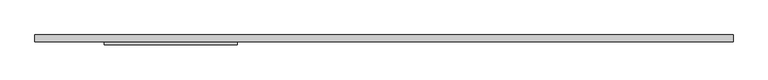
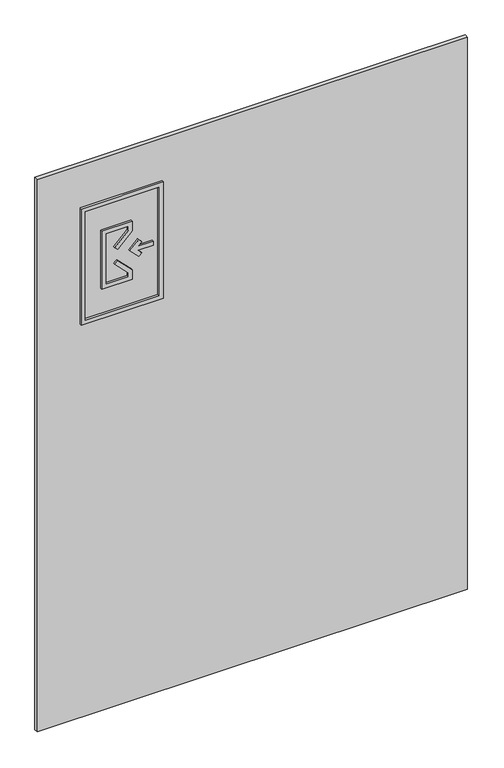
"""IFC4 building model written with IfcOpenShell, lengths in millimetres: plate geometry, 教学楼 - 窗嵌板：外贴消防通道 : 教学楼 - 窗嵌板：外贴消防通道."""

from ifc_helpers import new_model, si_unit, frame, origin, origin_with_axes, place, context, project, spatial, polyline, outline, extrude, source, transform, mapped, element, save


def plate_7c94d5a9(model_context):
    return source(origin(), model_context, "Body", "SweptSolid", [
        extrude(outline(polyline([(1315.8626933, -420.9928715), (1015.8626933, -420.9928715), (1015.8626933, -220.9928715), (1315.8626933, -220.9928715), (1315.8626933, -420.9928715)]), holes=[polyline([(1305.8626933, -230.9928715), (1025.8626933, -230.9928715), (1025.8626933, -410.9928715), (1305.8626933, -410.9928715), (1305.8626933, -230.9928715)])]), frame((0.0, -15.0, 0.0), z_axis=(0.0, 1.0, 0.0), x_axis=(0.0, 0.0, 1.0)), (0.0, 0.0, 1.0), 15.0),
        extrude(outline(polyline([(1115.8626933, -295.9928715), (1151.2180324, -331.3482106), (1144.1469646, -338.4192784), (1111.7205577, -305.9928715), (1100.8626933, -305.9928715), (1100.8626933, -360.9928715), (1230.8626933, -360.9928715), (1230.8626933, -305.9928715), (1220.004829, -305.9928715), (1187.5784221, -338.4192784), (1180.5073543, -331.3482106), (1215.8626933, -295.9928715), (1240.8626933, -295.9928715), (1240.8626933, -370.9928715), (1090.8626933, -370.9928715), (1090.8626933, -295.9928715), (1115.8626933, -295.9928715)])), frame((0.0, -15.0, 0.0), z_axis=(0.0, 1.0, 0.0), x_axis=(0.0, 0.0, 1.0)), (0.0, 0.0, 1.0), 15.0),
        extrude(outline(polyline([(1170.9929721, -282.5992105), (1180.1351078, -273.4570748), (1187.2061756, -280.5281427), (1165.9929721, -301.7413461), (1144.7797687, -280.5281427), (1151.8508365, -273.4570748), (1160.9929721, -282.5992105), (1160.9929721, -244.6702783), (1170.9929721, -244.6702783), (1170.9929721, -282.5992105)])), frame((0.0, -15.0, 0.0), z_axis=(0.0, 1.0, 0.0), x_axis=(0.0, 0.0, 1.0)), (0.0, 0.0, 1.0), 15.0),
        extrude(outline(polyline([(525.0, -10.0), (-525.0, -10.0), (-525.0, 0.0), (525.0, 0.0), (525.0, -10.0)])), origin_with_axes(), (0.0, 0.0, 1.0), 1425.0),
    ])


if __name__ == "__main__":
    model = new_model("IFC4")
    model_context = context("Model", 3, world=origin())
    ifc_project = project(units=[si_unit("LENGTHUNIT", "METRE", prefix="MILLI")], contexts=[model_context])
    site = spatial("IfcSite", under=ifc_project)
    building = spatial("IfcBuilding", under=site)
    placement = place(None, origin())
    plate_shape = plate_7c94d5a9(model_context)
    element("IfcPlate", 1, ObjectType="教学楼 - 窗嵌板：外贴消防通道 : 教学楼 - 窗嵌板：外贴消防通道", at=placement, inside=building, context=model_context, shape_type="MappedRepresentation", body=[
        mapped(plate_shape, transform((0.0, 0.0, 0.0), x_axis=(1.0, 0.0, 0.0), y_axis=(0.0, 1.0, 0.0), z_axis=(0.0, 0.0, 1.0))),
    ])
    save(model, "model.ifc")
